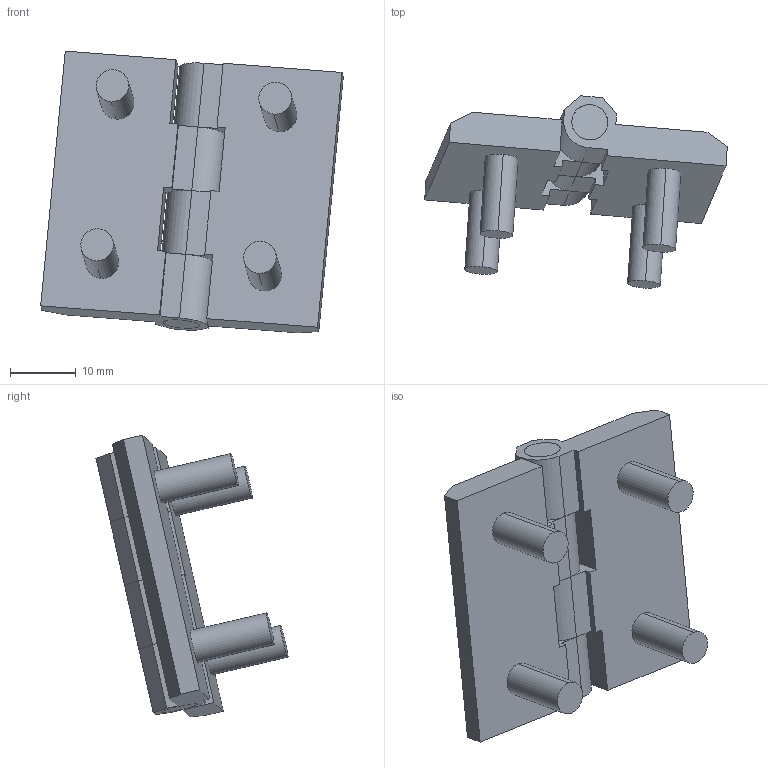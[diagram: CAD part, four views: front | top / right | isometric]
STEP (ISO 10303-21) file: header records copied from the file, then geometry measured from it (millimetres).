
FILE_DESCRIPTION (( 'STEP AP203' ), '1' );
FILE_NAME ('CL266-3A.STEP', '2023-12-11T00:53:06', ( '' ), ( '' ), 'SwSTEP 2.0', 'SolidWorks 2020', '' );
FILE_SCHEMA (( 'CONFIG_CONTROL_DESIGN' ));
Length unit declared in the file: millimetre
Products named in the file (3): 226-3-A; CL266-3A; 种赽
Assembly tree (3 placements, depth 2):
  CL266-3A
    种赽
    226-3-A  x2
Bounding box: 46.16 x 29.29 x 42.99 mm (x, y, z)
Volume: 9776.3 mm3; surface area: 6986.5 mm2
Topology: 3 solids, 3 shells, 78 faces, 204 edges, 136 vertices
Faces by surface type: plane 56, cylinder 22
Entity records: 1588 total; most frequent: DIRECTION 223, CARTESIAN_POINT 222, ORIENTED_EDGE 210, EDGE_CURVE 105, LINE 81, VECTOR 81, AXIS2_PLACEMENT_3D 71, VERTEX_POINT 70
